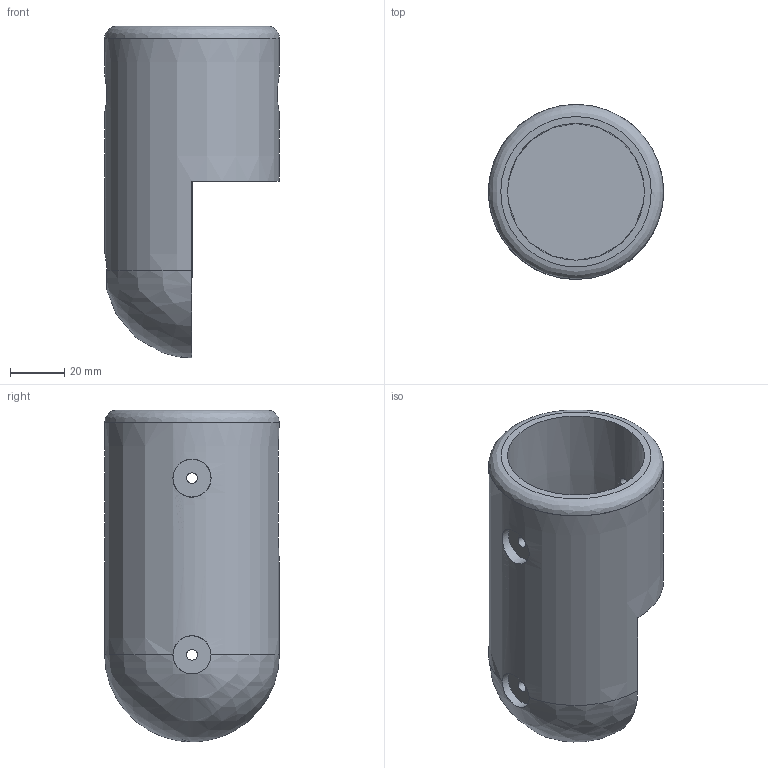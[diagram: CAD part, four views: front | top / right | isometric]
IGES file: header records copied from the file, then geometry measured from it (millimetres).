
Start section: SolidWorks IGES file using analytic representation for surfaces
Global section: file name: D:\Praca\Zlecenia prywatne\Konrad Izdebski Evergrip\KIE_018 Elementy z³¹czne\Dokumentacja\IGES\KIE_018.A14.IGS; native system: SolidWorks 2023; preprocessor: SolidWorks 2023; author: patry; date: 250122.203251; units: millimetre
Bounding box: 64.3 x 64.3 x 122 mm (x, y, z)
Surface area: 35007.8 mm2 (no closed solid volume)
Topology: 0 solids, 0 shells, 30 faces, 372 edges, 360 vertices
Faces by surface type: revolution 23, bspline 7
